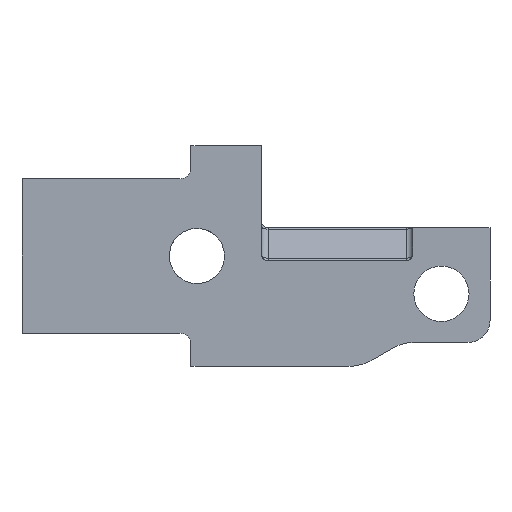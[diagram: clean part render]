
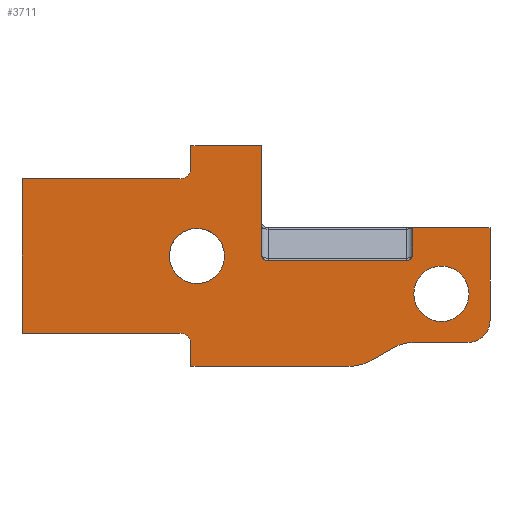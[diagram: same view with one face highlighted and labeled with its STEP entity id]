
A CAD part, front view. The second image highlights one B-rep face of the part: STEP entity #3711.
In plain terms, the highlighted planar face has unit normal (0, -1, 0).
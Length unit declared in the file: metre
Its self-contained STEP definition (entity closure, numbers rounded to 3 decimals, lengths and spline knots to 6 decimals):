
#347=LINE('',#5400,#599);
#354=LINE('',#5420,#606);
#358=LINE('',#5447,#610);
#397=LINE('',#5648,#649);
#398=LINE('',#5650,#650);
#401=LINE('',#5656,#653);
#439=LINE('',#5768,#691);
#442=LINE('',#5791,#694);
#446=LINE('',#5804,#698);
#450=LINE('',#5835,#702);
#537=LINE('',#6117,#789);
#579=LINE('',#6657,#831);
#584=LINE('',#7019,#836);
#585=LINE('',#7023,#837);
#599=VECTOR('',#4224,1.);
#606=VECTOR('',#4241,1.);
#610=VECTOR('',#4257,1.);
#649=VECTOR('',#4332,1.);
#650=VECTOR('',#4335,1.);
#653=VECTOR('',#4340,1.);
#691=VECTOR('',#4416,1.);
#694=VECTOR('',#4431,1.);
#698=VECTOR('',#4441,1.);
#702=VECTOR('',#4453,1.);
#789=VECTOR('',#4760,1.);
#831=VECTOR('',#5072,1.);
#836=VECTOR('',#5275,1.);
#837=VECTOR('',#5280,1.);
#1841=ORIENTED_EDGE('',*,*,#1969,.F.);
#1842=ORIENTED_EDGE('',*,*,#2449,.T.);
#1843=ORIENTED_EDGE('',*,*,#2450,.F.);
#1844=ORIENTED_EDGE('',*,*,#2451,.T.);
#1845=ORIENTED_EDGE('',*,*,#2044,.F.);
#1846=ORIENTED_EDGE('',*,*,#1958,.T.);
#1847=ORIENTED_EDGE('',*,*,#1961,.F.);
#1848=ORIENTED_EDGE('',*,*,#2043,.T.);
#1849=ORIENTED_EDGE('',*,*,#2392,.F.);
#1850=ORIENTED_EDGE('',*,*,#2448,.F.);
#1851=ORIENTED_EDGE('',*,*,#2268,.T.);
#1852=ORIENTED_EDGE('',*,*,#2369,.F.);
#1853=ORIENTED_EDGE('',*,*,#2047,.F.);
#1854=ORIENTED_EDGE('',*,*,#2103,.F.);
#1855=ORIENTED_EDGE('',*,*,#2115,.T.);
#1856=ORIENTED_EDGE('',*,*,#2452,.T.);
#1857=ORIENTED_EDGE('',*,*,#1952,.F.);
#1858=ORIENTED_EDGE('',*,*,#2453,.F.);
#1859=ORIENTED_EDGE('',*,*,#2123,.T.);
#1860=ORIENTED_EDGE('',*,*,#2454,.T.);
#1861=ORIENTED_EDGE('',*,*,#2109,.F.);
#1862=ORIENTED_EDGE('',*,*,#1959,.F.);
#1863=ORIENTED_EDGE('',*,*,#2117,.F.);
#1952=EDGE_CURVE('',#2496,#2497,#347,.T.);
#1958=EDGE_CURVE('',#2500,#2501,#2790,.F.);
#1959=EDGE_CURVE('',#2502,#2502,#2791,.F.);
#1961=EDGE_CURVE('',#2503,#2501,#354,.T.);
#1969=EDGE_CURVE('',#2508,#2509,#358,.T.);
#2043=EDGE_CURVE('',#2503,#2580,#397,.T.);
#2044=EDGE_CURVE('',#2500,#2581,#398,.T.);
#2047=EDGE_CURVE('',#2582,#2583,#401,.T.);
#2103=EDGE_CURVE('',#2637,#2582,#439,.T.);
#2109=EDGE_CURVE('',#2509,#2640,#442,.T.);
#2115=EDGE_CURVE('',#2637,#2645,#446,.T.);
#2117=EDGE_CURVE('',#2646,#2646,#2816,.F.);
#2123=EDGE_CURVE('',#2652,#2651,#450,.T.);
#2268=EDGE_CURVE('',#2737,#2738,#537,.T.);
#2369=EDGE_CURVE('',#2583,#2738,#2904,.F.);
#2392=EDGE_CURVE('',#2772,#2580,#579,.T.);
#2448=EDGE_CURVE('',#2737,#2772,#2922,.F.);
#2449=EDGE_CURVE('',#2508,#2775,#2923,.F.);
#2450=EDGE_CURVE('',#2776,#2775,#584,.T.);
#2451=EDGE_CURVE('',#2776,#2581,#2924,.T.);
#2452=EDGE_CURVE('',#2645,#2497,#2925,.T.);
#2453=EDGE_CURVE('',#2652,#2496,#585,.T.);
#2454=EDGE_CURVE('',#2651,#2640,#2926,.T.);
#2496=VERTEX_POINT('',#5401);
#2497=VERTEX_POINT('',#5402);
#2500=VERTEX_POINT('',#5410);
#2501=VERTEX_POINT('',#5412);
#2502=VERTEX_POINT('',#5416);
#2503=VERTEX_POINT('',#5419);
#2508=VERTEX_POINT('',#5446);
#2509=VERTEX_POINT('',#5448);
#2580=VERTEX_POINT('',#5647);
#2581=VERTEX_POINT('',#5651);
#2582=VERTEX_POINT('',#5655);
#2583=VERTEX_POINT('',#5657);
#2637=VERTEX_POINT('',#5767);
#2640=VERTEX_POINT('',#5792);
#2645=VERTEX_POINT('',#5803);
#2646=VERTEX_POINT('',#5809);
#2651=VERTEX_POINT('',#5834);
#2652=VERTEX_POINT('',#5836);
#2737=VERTEX_POINT('',#6118);
#2738=VERTEX_POINT('',#6119);
#2772=VERTEX_POINT('',#6656);
#2775=VERTEX_POINT('',#7018);
#2776=VERTEX_POINT('',#7020);
#2790=CIRCLE('',#3754,0.001);
#2791=CIRCLE('',#3756,0.00125);
#2816=CIRCLE('',#3814,0.00125);
#2904=CIRCLE('',#4052,0.0003);
#2922=CIRCLE('',#4157,0.0003);
#2923=CIRCLE('',#4159,0.002);
#2924=CIRCLE('',#4160,0.002);
#2925=CIRCLE('',#4161,0.0005);
#2926=CIRCLE('',#4162,0.0005);
#3163=EDGE_LOOP('',(#1841,#1842,#1843,#1844,#1845,#1846,#1847,#1848,#1849,
#1850,#1851,#1852,#1853,#1854,#1855,#1856,#1857,#1858,#1859,#1860,#1861));
#3164=EDGE_LOOP('',(#1862));
#3165=EDGE_LOOP('',(#1863));
#3412=FACE_BOUND('',#3163,.T.);
#3413=FACE_BOUND('',#3164,.T.);
#3414=FACE_BOUND('',#3165,.T.);
#3484=PLANE('',#4158);
#3711=ADVANCED_FACE('',(#3412,#3413,#3414),#3484,.F.);
#3754=AXIS2_PLACEMENT_3D('',#5413,#4232,#4233);
#3756=AXIS2_PLACEMENT_3D('',#5415,#4236,#4237);
#3814=AXIS2_PLACEMENT_3D('',#5808,#4447,#4448);
#4052=AXIS2_PLACEMENT_3D('',#6610,#5032,#5033);
#4157=AXIS2_PLACEMENT_3D('',#7015,#5269,#5270);
#4158=AXIS2_PLACEMENT_3D('',#7016,#5271,#5272);
#4159=AXIS2_PLACEMENT_3D('',#7017,#5273,#5274);
#4160=AXIS2_PLACEMENT_3D('',#7021,#5276,#5277);
#4161=AXIS2_PLACEMENT_3D('',#7022,#5278,#5279);
#4162=AXIS2_PLACEMENT_3D('',#7024,#5281,#5282);
#4224=DIRECTION('',(1.,0.,0.));
#4232=DIRECTION('',(0.,1.,0.));
#4233=DIRECTION('',(-1.,0.,0.));
#4236=DIRECTION('',(0.,1.,0.));
#4237=DIRECTION('',(-1.,0.,0.));
#4241=DIRECTION('',(0.,0.,-1.));
#4257=DIRECTION('',(-1.,0.,0.));
#4332=DIRECTION('',(-1.,0.,0.));
#4335=DIRECTION('',(-1.,0.,0.));
#4340=DIRECTION('',(0.,0.,-1.));
#4416=DIRECTION('',(1.,0.,0.));
#4431=DIRECTION('',(0.,0.,1.));
#4441=DIRECTION('',(0.,0.,-1.));
#4447=DIRECTION('',(0.,1.,0.));
#4448=DIRECTION('',(-1.,0.,0.));
#4453=DIRECTION('',(1.,0.,0.));
#4760=DIRECTION('',(-1.,0.,0.));
#5032=DIRECTION('',(0.,1.,0.));
#5033=DIRECTION('',(-1.,0.,0.));
#5072=DIRECTION('',(0.,0.,1.));
#5269=DIRECTION('',(0.,1.,0.));
#5270=DIRECTION('',(-1.,0.,0.));
#5271=DIRECTION('',(0.,1.,0.));
#5272=DIRECTION('',(-1.,0.,0.));
#5273=DIRECTION('',(0.,1.,0.));
#5274=DIRECTION('',(-1.,0.,0.));
#5275=DIRECTION('',(-0.866,0.,-0.5));
#5276=DIRECTION('',(0.,1.,0.));
#5277=DIRECTION('',(-1.,0.,0.));
#5278=DIRECTION('',(0.,1.,0.));
#5279=DIRECTION('',(-1.,0.,0.));
#5280=DIRECTION('',(0.,0.,1.));
#5281=DIRECTION('',(0.,1.,0.));
#5282=DIRECTION('',(-1.,0.,0.));
#5400=CARTESIAN_POINT('',(-0.004967,0.018593,0.010363));
#5401=CARTESIAN_POINT('',(-0.011292,0.018593,0.010363));
#5402=CARTESIAN_POINT('',(-0.004142,0.018593,0.010363));
#5410=CARTESIAN_POINT('',(0.008895,0.018593,0.00295));
#5412=CARTESIAN_POINT('',(0.009895,0.018593,0.00395));
#5413=CARTESIAN_POINT('',(0.008895,0.018593,0.00395));
#5415=CARTESIAN_POINT('',(0.007695,0.018593,0.00515));
#5416=CARTESIAN_POINT('',(0.006445,0.018593,0.00515));
#5419=CARTESIAN_POINT('',(0.009895,0.018593,0.00815));
#5420=CARTESIAN_POINT('',(0.009895,0.018593,0.0136));
#5446=CARTESIAN_POINT('',(0.003509,0.018593,0.001863));
#5447=CARTESIAN_POINT('',(-0.003374,0.018593,0.001863));
#5448=CARTESIAN_POINT('',(-0.003642,0.018593,0.001863));
#5647=CARTESIAN_POINT('',(0.006395,0.018593,0.00815));
#5648=CARTESIAN_POINT('',(0.005045,0.018593,0.00815));
#5650=CARTESIAN_POINT('',(0.005045,0.018593,0.00295));
#5651=CARTESIAN_POINT('',(0.006465,0.018593,0.00295));
#5655=CARTESIAN_POINT('',(-0.000455,0.018593,0.011863));
#5656=CARTESIAN_POINT('',(-0.000455,0.018593,0.00965));
#5657=CARTESIAN_POINT('',(-0.000455,0.018593,0.006946));
#5767=CARTESIAN_POINT('',(-0.003642,0.018593,0.011863));
#5768=CARTESIAN_POINT('',(-0.003374,0.018593,0.011863));
#5791=CARTESIAN_POINT('',(-0.003642,0.018593,0.002613));
#5792=CARTESIAN_POINT('',(-0.003642,0.018593,0.002863));
#5803=CARTESIAN_POINT('',(-0.003642,0.018593,0.010863));
#5804=CARTESIAN_POINT('',(-0.003642,0.018593,0.011113));
#5808=CARTESIAN_POINT('',(-0.003374,0.018593,0.006863));
#5809=CARTESIAN_POINT('',(-0.004624,0.018593,0.006863));
#5834=CARTESIAN_POINT('',(-0.004142,0.018593,0.003363));
#5835=CARTESIAN_POINT('',(-0.004967,0.018593,0.003363));
#5836=CARTESIAN_POINT('',(-0.011292,0.018593,0.003363));
#6117=CARTESIAN_POINT('',(-0.000457,0.018593,0.006646));
#6118=CARTESIAN_POINT('',(0.006095,0.018593,0.006646));
#6119=CARTESIAN_POINT('',(-0.000155,0.018593,0.006646));
#6610=CARTESIAN_POINT('',(-0.000155,0.018593,0.006946));
#6656=CARTESIAN_POINT('',(0.006395,0.018593,0.006946));
#6657=CARTESIAN_POINT('',(0.006395,0.018593,0.00605));
#7015=CARTESIAN_POINT('',(0.006095,0.018593,0.006946));
#7016=CARTESIAN_POINT('',(0.004112,0.018593,0.007147));
#7017=CARTESIAN_POINT('',(0.003509,0.018593,0.003863));
#7018=CARTESIAN_POINT('',(0.004509,0.018593,0.00213));
#7019=CARTESIAN_POINT('',(0.004987,0.018593,0.002406));
#7020=CARTESIAN_POINT('',(0.005465,0.018593,0.002682));
#7021=CARTESIAN_POINT('',(0.006465,0.018593,0.00095));
#7022=CARTESIAN_POINT('',(-0.004142,0.018593,0.010863));
#7023=CARTESIAN_POINT('',(-0.011292,0.018593,0.006863));
#7024=CARTESIAN_POINT('',(-0.004142,0.018593,0.002863));
